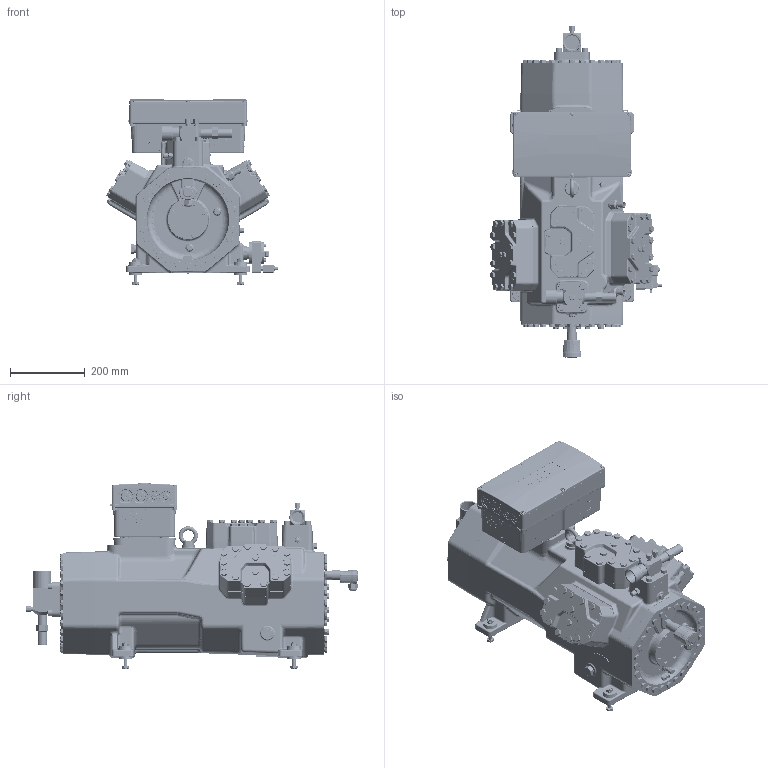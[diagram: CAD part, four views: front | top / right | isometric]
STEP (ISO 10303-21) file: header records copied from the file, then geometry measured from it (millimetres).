
FILE_DESCRIPTION(/* description */ (''),/* implementation_level */ '2;1');
FILE_NAME(/* name */ '6TME-6PME-CPL_Arrangement 1.stp',/* time_stamp */ '2025-05-19T07:25:04+02:00',/* author */ (''),/* organization */ (''),/* preprocessor_version */ 'ST-DEVELOPER v20',/* originating_system */ 'SIEMENS PLM Software NX2406.8100',/* authorisation */ '');
FILE_SCHEMA (('AUTOMOTIVE_DESIGN { 1 0 10303 214 3 1 1 1 }'));
Products named in the file (21): PRESSURE-SENSOR-LP100-HP160-01; PT1000; SEALING-SCREW-1-2-20-UNF-01; OIL-LEVEL-MONITORING-OLM-IQ-2; BLIND-FLANGE-CO2-94-94; BLIND-FLANGE-CO2-80-80; OIL-PRESS-CUT-OUT-DELTAP-2-01; TERMINAL-BOX-FROM-10HP-IP54; CRANKCASE-HEATER-200-260V-120W; CYLINDER-HEAD-02; DAMPER-ELEMENT-CKHE5-CME5; SHUT-OFF-VALVE-DI41-DA48-DN40; SHUT-OFF-VALVE-DI35-DA42-DN27; TERMINAL-BOX-FROM-CM-RC-02; BEARING-COVER-CKH5-01; HOUSING-COVER-CKH5; BODY-CME5; 6TME-6PME-MARINE; 6TME-6PME-OPTION; 6TME-6PME-STANDARD; 6TME-6PME-CPL
Assembly tree (26 placements, depth 3):
  6TME-6PME-CPL
    6TME-6PME-STANDARD
      BODY-CME5
      HOUSING-COVER-CKH5
      BEARING-COVER-CKH5-01
      TERMINAL-BOX-FROM-CM-RC-02
      SHUT-OFF-VALVE-DI35-DA42-DN27
      SHUT-OFF-VALVE-DI41-DA48-DN40
      DAMPER-ELEMENT-CKHE5-CME5
      CYLINDER-HEAD-02  x3
      CRANKCASE-HEATER-200-260V-120W
      TERMINAL-BOX-FROM-10HP-IP54
    6TME-6PME-OPTION
      OIL-PRESS-CUT-OUT-DELTAP-2-01
      BLIND-FLANGE-CO2-80-80
      BLIND-FLANGE-CO2-94-94
      OIL-LEVEL-MONITORING-OLM-IQ-2
      SEALING-SCREW-1-2-20-UNF-01  x2
      PT1000
      PRESSURE-SENSOR-LP100-HP160-01  x2
    6TME-6PME-MARINE
      BEARING-COVER-CKH5-01
      OIL-PRESS-CUT-OUT-DELTAP-2-01
Bounding box: 458.89 x 886.24 x 494.26 mm (x, y, z)
Volume: 65786808.2 mm3; surface area: 2454669.1 mm2
Topology: 42 solids, 50 shells, 18945 faces, 45568 edges, 26486 vertices
Faces by surface type: bspline 7156, plane 4119, cylinder 3513, torus 1636, cone 1597, sphere 687, extrusion 225, revolution 12
Full cylindrical faces by diameter (mm): 3 x4, 4 x2, 4.826 x6, 5 x9, 6 x2, 8 x2, 8.5 x33, 9 x3, 9.5 x6, 9.8 x1, 10 x31, 10.287 x1, 10.29 x2, 10.5 x2, 10.6 x12, 10.72 x3, 10.8 x4, 10.835 x2, 11 x19, 11.2 x2, 11.4 x2, 11.5 x2, 11.63 x16, 12 x1, 12.2 x4, 12.494 x2, 12.5 x2, 12.9 x2, 13 x2, 13.67 x4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
Entity records: 400599 total; most frequent: CARTESIAN_POINT 163702, ORIENTED_EDGE 51044, DIRECTION 39494, EDGE_CURVE 25522, AXIS2_PLACEMENT_3D 16524, VERTEX_POINT 15949, EDGE_LOOP 12833, ADVANCED_FACE 11227
